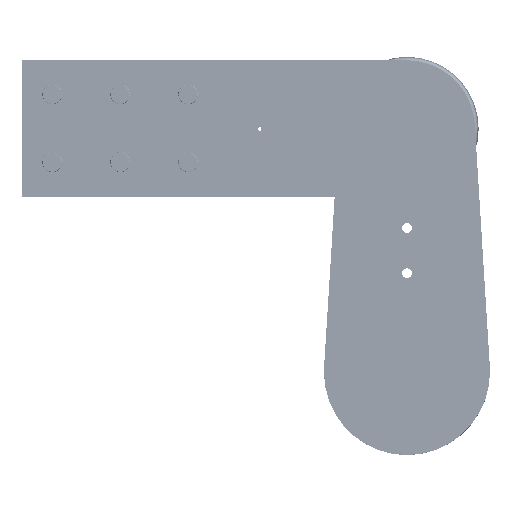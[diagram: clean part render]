
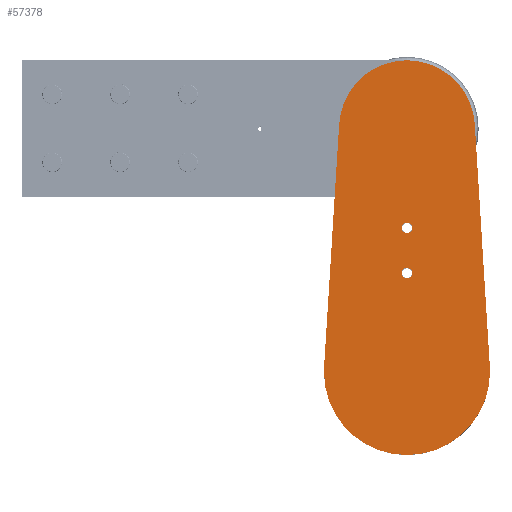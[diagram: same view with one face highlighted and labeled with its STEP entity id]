
A CAD part, top view. The second image highlights one B-rep face of the part: STEP entity #57378.
In plain terms, the highlighted planar face has unit normal (0, 0, 1) as drawn and (0, 0, -1) by its records, which use the part's own axes.
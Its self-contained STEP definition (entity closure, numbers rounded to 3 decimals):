
#20128 = FACE_BOUND ( 'NONE', #63218, .T. ) ;
#20135 = FACE_BOUND ( 'NONE', #63207, .T. ) ;
#20139 = FACE_OUTER_BOUND ( 'NONE', #63216, .T. ) ;
#22894 = AXIS2_PLACEMENT_3D ( 'NONE', #35094, #35079, #35099 ) ;
#35079 = DIRECTION ( 'NONE',  ( 0., 0., 1. ) ) ;
#35094 = CARTESIAN_POINT ( 'NONE',  ( 0., 161.5, 0. ) ) ;
#35096 = PLANE ( 'NONE',  #22894 ) ;
#35099 = DIRECTION ( 'NONE',  ( 1., 0., 0. ) ) ;
#43505 = CARTESIAN_POINT ( 'NONE',  ( 3.5, 95.5, 0. ) ) ;
#43513 = CARTESIAN_POINT ( 'NONE',  ( -3.5, 95.5, 0. ) ) ;
#43650 = CARTESIAN_POINT ( 'NONE',  ( -54.894, 3.406, 0. ) ) ;
#43652 = CARTESIAN_POINT ( 'NONE',  ( 44.914, 164.286, 0. ) ) ;
#43654 = CARTESIAN_POINT ( 'NONE',  ( -44.914, 164.286, 0. ) ) ;
#43656 = CARTESIAN_POINT ( 'NONE',  ( -55., 0., 0. ) ) ;
#43660 = CARTESIAN_POINT ( 'NONE',  ( 54.894, 3.406, 0. ) ) ;
#43662 = CARTESIAN_POINT ( 'NONE',  ( 55., 0., 0. ) ) ;
#43682 = CARTESIAN_POINT ( 'NONE',  ( -3.5, 65.5, 0. ) ) ;
#43683 = CARTESIAN_POINT ( 'NONE',  ( 3.5, 65.5, 0. ) ) ;
#52399 = VERTEX_POINT ( 'NONE', #43505 ) ;
#52407 = VERTEX_POINT ( 'NONE', #43513 ) ;
#52544 = VERTEX_POINT ( 'NONE', #43650 ) ;
#52546 = VERTEX_POINT ( 'NONE', #43652 ) ;
#52548 = VERTEX_POINT ( 'NONE', #43654 ) ;
#52550 = VERTEX_POINT ( 'NONE', #43656 ) ;
#52554 = VERTEX_POINT ( 'NONE', #43660 ) ;
#52556 = VERTEX_POINT ( 'NONE', #43662 ) ;
#52576 = VERTEX_POINT ( 'NONE', #43682 ) ;
#52577 = VERTEX_POINT ( 'NONE', #43683 ) ;
#57378 = ADVANCED_FACE ( 'NONE', ( #20135, #20128, #20139 ), #35096, .F. ) ;
#62518 = EDGE_CURVE ( 'NONE', #52554, #52546, #75220, .T. ) ;
#62524 = EDGE_CURVE ( 'NONE', #52577, #52576, #75222, .T. ) ;
#62526 = EDGE_CURVE ( 'NONE', #52548, #52544, #75226, .T. ) ;
#62574 = EDGE_CURVE ( 'NONE', #52576, #52577, #75247, .T. ) ;
#62635 = EDGE_CURVE ( 'NONE', #52399, #52407, #75267, .T. ) ;
#62669 = EDGE_CURVE ( 'NONE', #52550, #52556, #75272, .T. ) ;
#62679 = EDGE_CURVE ( 'NONE', #52407, #52399, #75285, .T. ) ;
#62682 = EDGE_CURVE ( 'NONE', #52544, #52550, #75289, .T. ) ;
#62772 = EDGE_CURVE ( 'NONE', #52556, #52554, #75323, .T. ) ;
#62818 = EDGE_CURVE ( 'NONE', #52546, #52548, #75343, .T. ) ;
#63207 = EDGE_LOOP ( 'NONE', ( #77767, #77768 ) ) ;
#63216 = EDGE_LOOP ( 'NONE', ( #77771, #77772, #77773, #77774, #77775, #77776 ) ) ;
#63218 = EDGE_LOOP ( 'NONE', ( #77769, #77770 ) ) ;
#69057 = AXIS2_PLACEMENT_3D ( 'NONE', #77237, #77239, #77240 ) ;
#69064 = AXIS2_PLACEMENT_3D ( 'NONE', #77336, #77338, #77340 ) ;
#69068 = AXIS2_PLACEMENT_3D ( 'NONE', #77462, #77464, #77466 ) ;
#69072 = AXIS2_PLACEMENT_3D ( 'NONE', #80844, #80845, #80846 ) ;
#69074 = AXIS2_PLACEMENT_3D ( 'NONE', #80851, #80852, #80853 ) ;
#69075 = AXIS2_PLACEMENT_3D ( 'NONE', #80856, #80857, #80858 ) ;
#69086 = AXIS2_PLACEMENT_3D ( 'NONE', #80928, #80929, #80930 ) ;
#69093 = AXIS2_PLACEMENT_3D ( 'NONE', #80967, #80968, #80969 ) ;
#75220 = LINE ( 'NONE', #77223, #75223 ) ;
#75222 = CIRCLE ( 'NONE', #69057, 3.5 ) ;
#75223 = VECTOR ( 'NONE', #77227, 1000. ) ;
#75226 = LINE ( 'NONE', #77231, #75228 ) ;
#75228 = VECTOR ( 'NONE', #77225, 1000. ) ;
#75247 = CIRCLE ( 'NONE', #69064, 3.5 ) ;
#75267 = CIRCLE ( 'NONE', #69068, 3.5 ) ;
#75272 = CIRCLE ( 'NONE', #69072, 55. ) ;
#75285 = CIRCLE ( 'NONE', #69074, 3.5 ) ;
#75289 = CIRCLE ( 'NONE', #69075, 55. ) ;
#75323 = CIRCLE ( 'NONE', #69086, 55. ) ;
#75343 = CIRCLE ( 'NONE', #69093, 45. ) ;
#77223 = CARTESIAN_POINT ( 'NONE',  ( 44.914, 164.286, 0. ) ) ;
#77225 = DIRECTION ( 'NONE',  ( -0.062, -0.998, 0. ) ) ;
#77227 = DIRECTION ( 'NONE',  ( -0.062, 0.998, 0. ) ) ;
#77231 = CARTESIAN_POINT ( 'NONE',  ( -44.914, 164.286, 0. ) ) ;
#77237 = CARTESIAN_POINT ( 'NONE',  ( 0., 65.5, 0. ) ) ;
#77239 = DIRECTION ( 'NONE',  ( 0., 0., -1. ) ) ;
#77240 = DIRECTION ( 'NONE',  ( 1., 0., 0. ) ) ;
#77336 = CARTESIAN_POINT ( 'NONE',  ( 0., 65.5, 0. ) ) ;
#77338 = DIRECTION ( 'NONE',  ( 0., 0., -1. ) ) ;
#77340 = DIRECTION ( 'NONE',  ( 1., 0., 0. ) ) ;
#77462 = CARTESIAN_POINT ( 'NONE',  ( 0., 95.5, 0. ) ) ;
#77464 = DIRECTION ( 'NONE',  ( 0., 0., -1. ) ) ;
#77466 = DIRECTION ( 'NONE',  ( 1., 0., 0. ) ) ;
#77767 = ORIENTED_EDGE ( 'NONE', *, *, #62635, .F. ) ;
#77768 = ORIENTED_EDGE ( 'NONE', *, *, #62679, .F. ) ;
#77769 = ORIENTED_EDGE ( 'NONE', *, *, #62524, .F. ) ;
#77770 = ORIENTED_EDGE ( 'NONE', *, *, #62574, .F. ) ;
#77771 = ORIENTED_EDGE ( 'NONE', *, *, #62818, .F. ) ;
#77772 = ORIENTED_EDGE ( 'NONE', *, *, #62518, .F. ) ;
#77773 = ORIENTED_EDGE ( 'NONE', *, *, #62772, .F. ) ;
#77774 = ORIENTED_EDGE ( 'NONE', *, *, #62669, .F. ) ;
#77775 = ORIENTED_EDGE ( 'NONE', *, *, #62682, .F. ) ;
#77776 = ORIENTED_EDGE ( 'NONE', *, *, #62526, .F. ) ;
#80844 = CARTESIAN_POINT ( 'NONE',  ( 0., 0., 0. ) ) ;
#80845 = DIRECTION ( 'NONE',  ( 0., 0., 1. ) ) ;
#80846 = DIRECTION ( 'NONE',  ( 1., 0., 0. ) ) ;
#80851 = CARTESIAN_POINT ( 'NONE',  ( 0., 95.5, 0. ) ) ;
#80852 = DIRECTION ( 'NONE',  ( 0., 0., -1. ) ) ;
#80853 = DIRECTION ( 'NONE',  ( 1., 0., 0. ) ) ;
#80856 = CARTESIAN_POINT ( 'NONE',  ( 0., 0., 0. ) ) ;
#80857 = DIRECTION ( 'NONE',  ( 0., 0., 1. ) ) ;
#80858 = DIRECTION ( 'NONE',  ( 1., 0., 0. ) ) ;
#80928 = CARTESIAN_POINT ( 'NONE',  ( 0., 0., 0. ) ) ;
#80929 = DIRECTION ( 'NONE',  ( 0., 0., 1. ) ) ;
#80930 = DIRECTION ( 'NONE',  ( 1., 0., 0. ) ) ;
#80967 = CARTESIAN_POINT ( 'NONE',  ( 0., 161.5, 0. ) ) ;
#80968 = DIRECTION ( 'NONE',  ( 0., 0., 1. ) ) ;
#80969 = DIRECTION ( 'NONE',  ( 1., 0., 0. ) ) ;
